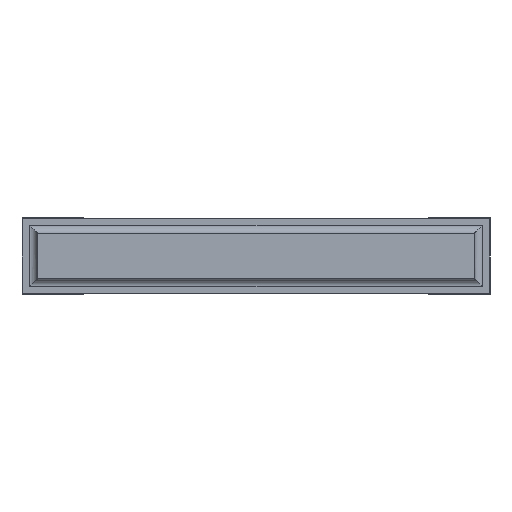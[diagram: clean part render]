
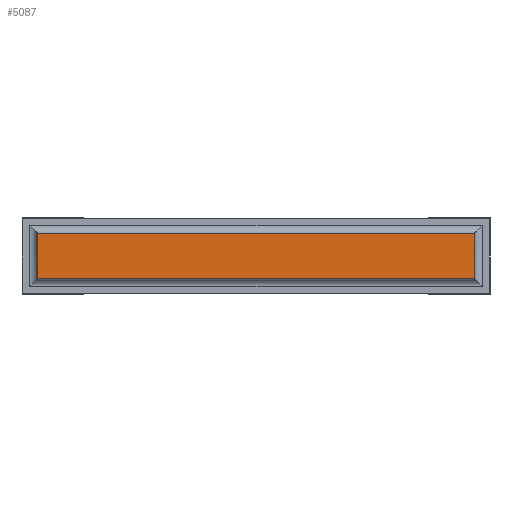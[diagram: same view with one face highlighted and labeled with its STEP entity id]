
A CAD part, front view. The second image highlights one B-rep face of the part: STEP entity #5087.
In plain terms, the highlighted planar face has unit normal (0, -1, 0).
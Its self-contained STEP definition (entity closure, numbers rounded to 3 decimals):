
#109=PLANE('',#5403);
#329=FACE_OUTER_BOUND('',#614,.T.);
#614=EDGE_LOOP('',(#3527,#3528,#3529,#3530));
#894=LINE('',#7227,#1550);
#900=LINE('',#7243,#1556);
#909=LINE('',#7260,#1565);
#910=LINE('',#7262,#1566);
#1550=VECTOR('',#5792,10.);
#1556=VECTOR('',#5806,10.);
#1565=VECTOR('',#5823,10.);
#1566=VECTOR('',#5826,10.);
#2239=VERTEX_POINT('',#7224);
#2240=VERTEX_POINT('',#7226);
#2245=VERTEX_POINT('',#7239);
#2246=VERTEX_POINT('',#7241);
#2736=EDGE_CURVE('',#2240,#2239,#894,.T.);
#2744=EDGE_CURVE('',#2246,#2245,#900,.T.);
#2753=EDGE_CURVE('',#2240,#2246,#909,.T.);
#2754=EDGE_CURVE('',#2245,#2239,#910,.T.);
#3527=ORIENTED_EDGE('',*,*,#2753,.F.);
#3528=ORIENTED_EDGE('',*,*,#2736,.T.);
#3529=ORIENTED_EDGE('',*,*,#2754,.F.);
#3530=ORIENTED_EDGE('',*,*,#2744,.F.);
#5087=ADVANCED_FACE('',(#329),#109,.T.);
#5403=AXIS2_PLACEMENT_3D('',#7261,#5824,#5825);
#5792=DIRECTION('',(0.,0.,-1.));
#5806=DIRECTION('',(0.,0.,-1.));
#5823=DIRECTION('',(1.,0.,0.));
#5824=DIRECTION('center_axis',(0.,-1.,0.));
#5825=DIRECTION('ref_axis',(0.,0.,-1.));
#5826=DIRECTION('',(-1.,0.,0.));
#7224=CARTESIAN_POINT('',(0.1,0.,0.1));
#7226=CARTESIAN_POINT('',(0.1,0.,0.4));
#7227=CARTESIAN_POINT('',(0.1,0.,0.4));
#7239=CARTESIAN_POINT('',(2.96,0.,0.1));
#7241=CARTESIAN_POINT('',(2.96,0.,0.4));
#7243=CARTESIAN_POINT('',(2.96,0.,0.4));
#7260=CARTESIAN_POINT('',(0.1,0.,0.4));
#7261=CARTESIAN_POINT('Origin',(2.96,0.,0.25));
#7262=CARTESIAN_POINT('',(2.96,0.,0.1));
